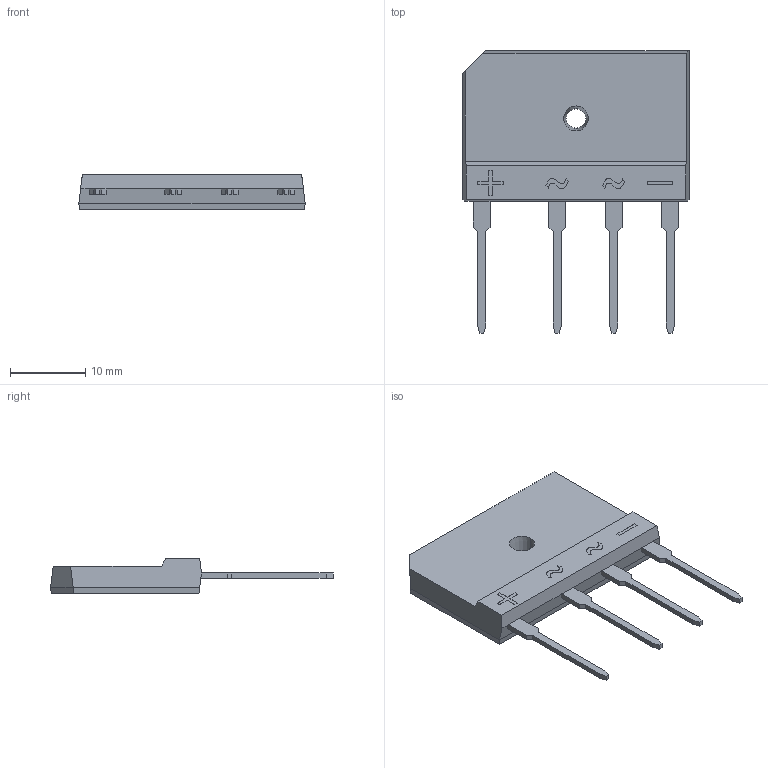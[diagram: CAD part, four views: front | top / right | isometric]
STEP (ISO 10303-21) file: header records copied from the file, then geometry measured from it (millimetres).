
FILE_DESCRIPTION (( 'STEP AP214' ), '1' );
FILE_NAME ('KBJ-wx20220402.STEP', '2022-04-02T01:34:04', ( '' ), ( '' ), 'SwSTEP 2.0', 'SolidWorks 2021', '' );
FILE_SCHEMA (( 'AUTOMOTIVE_DESIGN' ));
Length unit declared in the file: millimetre
Products named in the file (1): KBJ-wx20220402
Bounding box: 30 x 37.5 x 4.6 mm (x, y, z)
Volume: 2275.7 mm3; surface area: 3030.5 mm2
Topology: 5 solids, 5 shells, 104 faces, 268 edges, 178 vertices
Faces by surface type: plane 88, bspline 12, cone 4
Entity records: 4530 total; most frequent: CARTESIAN_POINT 1235, ORIENTED_EDGE 536, DIRECTION 438, EDGE_CURVE 268, VECTOR 236, LINE 236, VERTEX_POINT 178, EDGE_LOOP 112
